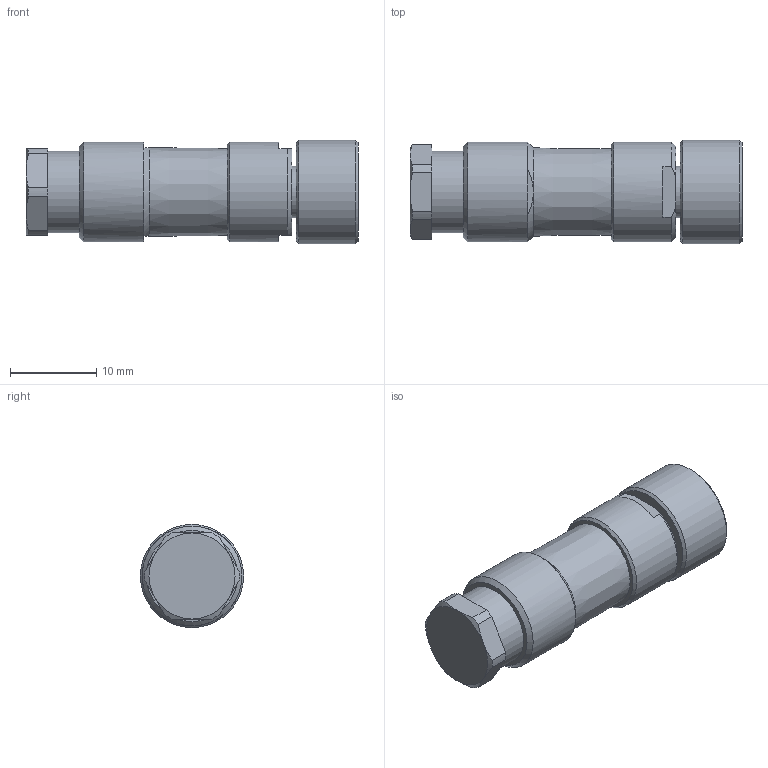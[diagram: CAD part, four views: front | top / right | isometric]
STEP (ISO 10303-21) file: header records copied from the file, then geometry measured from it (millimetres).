
FILE_DESCRIPTION(/* description */ (''),/* implementation_level */ '2;1');
FILE_NAME(/* name */ '99-3376-00-04_001_00.stp',/* time_stamp */ '2016-06-06T13:07:53+02:00',/* author */ (''),/* organization */ (''),/* preprocessor_version */ 'ST-DEVELOPER v14',/* originating_system */ 'SIEMENS PLM Software NX 8.0',/* authorisation */ '');
FILE_SCHEMA (('AUTOMOTIVE_DESIGN { 1 0 10303 214 3 1 1 1 }'));
Length unit declared in the file: millimetre
Products named in the file (1): cerl1B58AD46ck6h
Bounding box: 38.6 x 12 x 12 mm (x, y, z)
Volume: 3520.8 mm3; surface area: 2060 mm2
Topology: 1 solids, 3 shells, 87 faces, 172 edges, 108 vertices
Faces by surface type: plane 37, cylinder 27, cone 23
Full cylindrical faces by diameter (mm): 1.1 x4, 1.6 x4, 5.65 x1, 6 x1, 6.917 x1, 8.1 x2, 9.5 x1, 11.6 x2, 12 x1
Entity records: 2084 total; most frequent: CARTESIAN_POINT 384, DIRECTION 374, ORIENTED_EDGE 270, AXIS2_PLACEMENT_3D 171, EDGE_CURVE 135, EDGE_LOOP 134, VERTEX_POINT 101, FACE_BOUND 91
